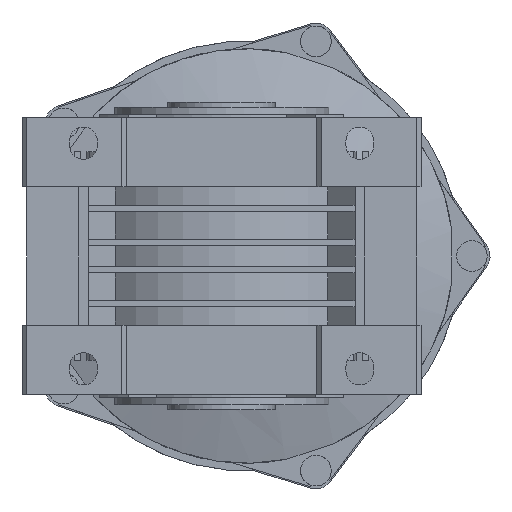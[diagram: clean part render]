
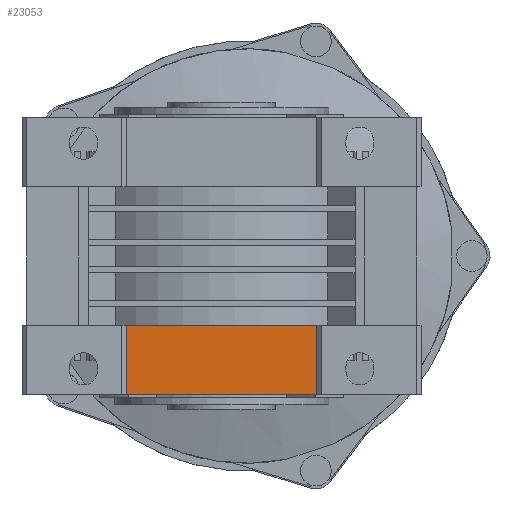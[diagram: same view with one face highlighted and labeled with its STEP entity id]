
A CAD part, left-side view. The second image highlights one B-rep face of the part: STEP entity #23053.
In plain terms, the highlighted planar face has unit normal (-1, 0, 0) as drawn and (1, 0, 0) by its records, which use the part's own axes.
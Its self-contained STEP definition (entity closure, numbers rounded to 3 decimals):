
#2808=ORIENTED_EDGE('',*,*,#6460,.F.);
#2809=ORIENTED_EDGE('',*,*,#7049,.F.);
#2810=ORIENTED_EDGE('',*,*,#7021,.T.);
#2811=ORIENTED_EDGE('',*,*,#7050,.T.);
#6460=EDGE_CURVE('',#8811,#8812,#10388,.T.);
#7021=EDGE_CURVE('',#9188,#9187,#10866,.T.);
#7049=EDGE_CURVE('',#9188,#8811,#10888,.T.);
#7050=EDGE_CURVE('',#9187,#8812,#10889,.T.);
#8811=VERTEX_POINT('',#31172);
#8812=VERTEX_POINT('',#31174);
#9187=VERTEX_POINT('',#32297);
#9188=VERTEX_POINT('',#32299);
#10388=LINE('',#31173,#12130);
#10866=LINE('',#32298,#12608);
#10888=LINE('',#32354,#12630);
#10889=LINE('',#32356,#12631);
#12130=VECTOR('',#26046,1000.);
#12608=VECTOR('',#27066,1000.);
#12630=VECTOR('',#27116,1000.);
#12631=VECTOR('',#27119,1000.);
#13790=EDGE_LOOP('',(#2808,#2809,#2810,#2811));
#14889=FACE_BOUND('',#13790,.T.);
#15902=PLANE('',#24220);
#23053=ADVANCED_FACE('',(#14889),#15902,.T.);
#24220=AXIS2_PLACEMENT_3D('',#32355,#27117,#27118);
#26046=DIRECTION('',(0.,1.,0.));
#27066=DIRECTION('',(0.,1.,0.));
#27116=DIRECTION('',(0.,0.,1.));
#27117=DIRECTION('',(1.,0.,0.));
#27118=DIRECTION('',(0.,0.,-1.));
#27119=DIRECTION('',(0.,0.,1.));
#31172=CARTESIAN_POINT('',(158.46,-23.,45.));
#31173=CARTESIAN_POINT('',(158.46,-23.,45.));
#31174=CARTESIAN_POINT('',(158.46,39.,45.));
#32297=CARTESIAN_POINT('',(158.46,39.,22.5));
#32298=CARTESIAN_POINT('',(158.46,-23.,22.5));
#32299=CARTESIAN_POINT('',(158.46,-23.,22.5));
#32354=CARTESIAN_POINT('',(158.46,-23.,22.5));
#32355=CARTESIAN_POINT('',(158.46,-23.,22.5));
#32356=CARTESIAN_POINT('',(158.46,39.,22.5));
